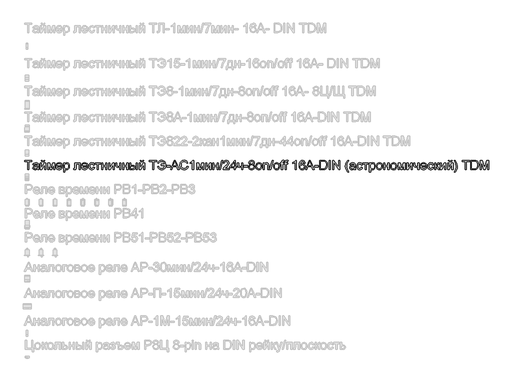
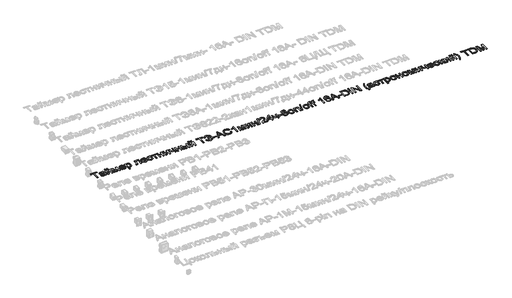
# One storey, part 32 of 34: 1 proxy.
"""IFC4 building model written with IfcOpenShell, lengths in millimetres."""

from ifc_helpers import new_model, si_unit, frame, origin, place, context, project, spatial, polyline, outline, extrude, element, save

model = new_model("IFC4")

# Units and contexts
model_context = context("Model", 3, world=origin())
ifc_project = project(units=[si_unit("LENGTHUNIT", "METRE", prefix="MILLI")], contexts=[model_context])

# Site, building, storey
site = spatial("IfcSite", under=ifc_project)
building = spatial("IfcBuilding", under=site)
storey = spatial("IfcBuildingStorey", under=building, Name="Этаж 01", Elevation=0.0)

# Proxy
placement = place(None, origin())
element("IfcBuildingElementProxy", 1, Name="Надпись на модели 1", ObjectType="Надпись на модели 1", at=placement, inside=storey, context=model_context, shape_type="SweptSolid", body=[
    extrude(outline(polyline([(-19013.8985135, 17056.235284), (-19013.8985135, 17144.1345554), (-19046.8607403, 17144.1345554), (-19046.8607403, 17156.6915941), (-18968.379248, 17156.6915941), (-18968.379248, 17144.1345554), (-19001.3414748, 17144.1345554), (-19001.3414748, 17056.235284), (-19013.8985135, 17056.235284)])), frame((0.0, 0.0, 40.0), z_axis=(0.0, 0.0, 1.0), x_axis=(1.0, 0.0, 0.0)), (0.0, 0.0, 1.0), 2.0),
    extrude(outline(polyline([(-18908.7333139, 17065.6530631), (-18920.9102079, 17057.1427262), (-18934.3624262, 17054.6656541), (-18944.8562601, 17056.1555762), (-18952.5971104, 17060.6253425), (-18957.3703793, 17067.4127653), (-18958.9614689, 17075.8556571), (-18956.5579732, 17085.7884709), (-18950.2426656, 17092.998958), (-18941.450286, 17097.1192364), (-18930.5855044, 17099.0076973), (-18908.8068903, 17103.3241794), (-18908.7333139, 17106.1200825), (-18912.1914046, 17115.3907088), (-18926.0728186, 17119.0204778), (-18938.7770101, 17116.6047194), (-18944.8348003, 17108.0330689), (-18957.3918391, 17109.6026988), (-18951.9594483, 17121.8654319), (-18941.0210903, 17129.0513936), (-18924.4541378, 17131.5775166), (-18909.2360859, 17129.3456992), (-18900.63991, 17123.7416301), (-18896.7894117, 17115.2190306), (-18896.1762751, 17104.2316216), (-18896.1762751, 17088.6088996), (-18895.538613, 17066.7934973), (-18893.0370154, 17056.235284), (-18905.5940542, 17056.235284), (-18908.7333139, 17065.6530631)]), holes=[polyline([(-18908.7333139, 17090.7671406), (-18928.9913491, 17086.9166424), (-18939.794817, 17084.8810287), (-18944.6876475, 17081.5700907), (-18946.4044302, 17076.7385739), (-18942.6642965, 17069.9450197), (-18931.6891504, 17067.2226929), (-18918.9849588, 17070.2270625), (-18910.793453, 17077.4988633), (-18908.8068903, 17087.210948), (-18908.7333139, 17090.7671406)])]), frame((0.0, 0.0, 40.0), z_axis=(0.0, 0.0, 1.0), x_axis=(1.0, 0.0, 0.0)), (0.0, 0.0, 1.0), 2.0),
    extrude(outline(polyline([(-18878.9103468, 17130.0078868), (-18866.353308, 17130.0078868), (-18866.353308, 17073.746467), (-18835.5002713, 17130.0078868), (-18819.2644126, 17130.0078868), (-18819.2644126, 17056.235284), (-18831.8214514, 17056.235284), (-18831.8214514, 17112.1533473), (-18862.4782843, 17056.235284), (-18878.9103468, 17056.235284), (-18878.9103468, 17130.0078868)])), frame((0.0, 0.0, 40.0), z_axis=(0.0, 0.0, 1.0), x_axis=(1.0, 0.0, 0.0)), (0.0, 0.0, 1.0), 2.0),
    extrude(outline(polyline([(-18838.0999708, 17156.6915941), (-18828.6821917, 17156.6915941), (-18834.7767701, 17142.7243411), (-18848.3025648, 17137.856036), (-18862.9442682, 17142.6875529), (-18869.4925677, 17156.6915941), (-18860.0747886, 17156.6915941), (-18856.5431215, 17149.6159971), (-18849.4307362, 17147.2738151), (-18841.6316379, 17149.5424207), (-18838.0999708, 17156.6915941)])), frame((0.0, 0.0, 40.0), z_axis=(0.0, 0.0, 1.0), x_axis=(1.0, 0.0, 0.0)), (0.0, 0.0, 1.0), 2.0),
    extrude(outline(polyline([(-18800.4288545, 17130.0078868), (-18778.8219186, 17130.0078868), (-18762.169127, 17070.9505638), (-18744.2164856, 17130.0078868), (-18723.516992, 17130.0078868), (-18723.516992, 17056.235284), (-18736.0740308, 17056.235284), (-18736.0740308, 17115.6359635), (-18754.124774, 17056.235284), (-18770.6058874, 17056.235284), (-18787.8718157, 17118.4809176), (-18787.8718157, 17056.235284), (-18800.4288545, 17056.235284), (-18800.4288545, 17130.0078868)])), frame((0.0, 0.0, 40.0), z_axis=(0.0, 0.0, 1.0), x_axis=(1.0, 0.0, 0.0)), (0.0, 0.0, 1.0), 2.0),
    extrude(outline(polyline([(-18653.0308017, 17078.2101018), (-18640.7190176, 17076.640472), (-18645.1550614, 17067.3637143), (-18652.2337241, 17060.4291387), (-18661.7955903, 17056.1065253), (-18673.6812444, 17054.6656541), (-18688.4149183, 17057.1519233), (-18699.7518151, 17064.6107308), (-18706.9806963, 17076.5576985), (-18709.3903234, 17092.5084487), (-18706.9561709, 17108.9956935), (-18699.6537133, 17121.3258717), (-18688.4701006, 17129.0146054), (-18674.3924829, 17131.5775166), (-18660.753258, 17129.0207367), (-18649.8547538, 17121.3503971), (-18642.7086461, 17109.0447444), (-18640.3266102, 17092.5820251), (-18640.4001866, 17089.1975108), (-18696.8332846, 17089.1975108), (-18694.6597152, 17079.7981258), (-18689.6105348, 17072.8880756), (-18682.3234056, 17068.6390386), (-18673.4359897, 17067.2226929), (-18661.1242056, 17069.8469178), (-18653.0308017, 17078.2101018)]), holes=[polyline([(-18696.8332846, 17101.7545495), (-18652.8836489, 17101.7545495), (-18657.9113695, 17113.1343659), (-18665.2322212, 17117.5489499), (-18674.4415339, 17119.0204778), (-18689.9048404, 17114.323851), (-18694.7700798, 17108.8332123), (-18696.8332846, 17101.7545495)])]), frame((0.0, 0.0, 40.0), z_axis=(0.0, 0.0, 1.0), x_axis=(1.0, 0.0, 0.0)), (0.0, 0.0, 1.0), 2.0),
    extrude(outline(polyline([(-18627.7695714, 17027.9819468), (-18627.7695714, 17130.0078868), (-18615.2125326, 17130.0078868), (-18615.2125326, 17117.6961027), (-18606.5305175, 17128.1071631), (-18594.8073446, 17131.5775166), (-18578.890317, 17126.7214743), (-18568.4915192, 17113.036264), (-18564.9843776, 17093.6856711), (-18568.9452404, 17073.3417968), (-18580.4476841, 17059.4849083), (-18596.3279235, 17054.6656541), (-18607.2540188, 17057.890753), (-18615.2125326, 17066.0454705), (-18615.2125326, 17027.9819468), (-18627.7695714, 17027.9819468)]), holes=[polyline([(-18615.2125326, 17092.5329742), (-18613.8544349, 17081.2757851), (-18609.7801418, 17073.4031104), (-18603.7683369, 17068.7677973), (-18596.5977037, 17067.2226929), (-18589.3105745, 17068.8229796), (-18583.1454854, 17073.6238396), (-18578.9424336, 17081.7846886), (-18577.5414163, 17093.4649419), (-18578.9087111, 17104.6608173), (-18583.0105953, 17112.6438566), (-18589.0132032, 17117.4263225), (-18596.0826689, 17119.0204778), (-18603.1797257, 17117.325155), (-18609.4122598, 17112.2391864), (-18613.7624644, 17103.9219876), (-18615.2125326, 17092.5329742)])]), frame((0.0, 0.0, 40.0), z_axis=(0.0, 0.0, 1.0), x_axis=(1.0, 0.0, 0.0)), (0.0, 0.0, 1.0), 2.0),
    extrude(outline(polyline([(-18505.3384434, 17130.0078868), (-18448.8317689, 17130.0078868), (-18448.8317689, 17056.3088604), (-18461.3888077, 17056.3088604), (-18461.3888077, 17117.450848), (-18492.7814046, 17117.450848), (-18492.7814046, 17082.2568038), (-18493.6275332, 17066.0209451), (-18498.2751091, 17059.1660772), (-18509.262518, 17056.235284), (-18519.465112, 17056.8729461), (-18519.465112, 17068.7923228), (-18513.8487802, 17068.7923228), (-18508.1711348, 17069.564875), (-18505.9025291, 17072.0174216), (-18505.3384434, 17082.9680423), (-18505.3384434, 17130.0078868)])), frame((0.0, 0.0, 40.0), z_axis=(0.0, 0.0, 1.0), x_axis=(1.0, 0.0, 0.0)), (0.0, 0.0, 1.0), 2.0),
    extrude(outline(polyline([(-18378.3455787, 17078.2101018), (-18366.0337946, 17076.640472), (-18370.4698383, 17067.3637143), (-18377.548501, 17060.4291387), (-18387.1103672, 17056.1065253), (-18398.9960213, 17054.6656541), (-18413.7296952, 17057.1519233), (-18425.0665921, 17064.6107308), (-18432.2954733, 17076.5576985), (-18434.7051003, 17092.5084487), (-18432.2709478, 17108.9956935), (-18424.9684902, 17121.3258717), (-18413.7848775, 17129.0146054), (-18399.7072599, 17131.5775166), (-18386.0680349, 17129.0207367), (-18375.1695308, 17121.3503971), (-18368.023423, 17109.0447444), (-18365.6413871, 17092.5820251), (-18365.7149635, 17089.1975108), (-18422.1480616, 17089.1975108), (-18419.9744921, 17079.7981258), (-18414.9253117, 17072.8880756), (-18407.6381825, 17068.6390386), (-18398.7507667, 17067.2226929), (-18386.4389826, 17069.8469178), (-18378.3455787, 17078.2101018)]), holes=[polyline([(-18422.1480616, 17101.7545495), (-18378.1984259, 17101.7545495), (-18383.2261465, 17113.1343659), (-18390.5469982, 17117.5489499), (-18399.7563108, 17119.0204778), (-18415.2196173, 17114.323851), (-18420.0848567, 17108.8332123), (-18422.1480616, 17101.7545495)])]), frame((0.0, 0.0, 40.0), z_axis=(0.0, 0.0, 1.0), x_axis=(1.0, 0.0, 0.0)), (0.0, 0.0, 1.0), 2.0),
    extrude(outline(polyline([(-18305.995453, 17082.9189914), (-18293.4384142, 17081.3493615), (-18296.9394245, 17070.1810773), (-18303.5183809, 17061.7412512), (-18312.5560152, 17056.4345534), (-18323.4330595, 17054.6656541), (-18336.7902416, 17057.1335292), (-18347.2350246, 17064.5371544), (-18353.9764622, 17076.5515672), (-18356.223608, 17092.8518052), (-18352.3853725, 17113.7107144), (-18340.6867251, 17127.1138817), (-18323.6047378, 17131.5775166), (-18312.9944079, 17130.044675), (-18304.5116622, 17125.44615), (-18298.4262809, 17118.0271964), (-18295.008044, 17108.0330689), (-18307.5650828, 17106.4634391), (-18313.3898811, 17115.8689554), (-18323.5066359, 17119.0204778), (-18331.6214996, 17117.4692421), (-18338.0625002, 17112.8155349), (-18342.265552, 17104.8079701), (-18343.6665693, 17093.1951618), (-18342.2962088, 17081.4260036), (-18338.1851275, 17073.3908477), (-18331.8606229, 17068.7647316), (-18323.8499925, 17067.2226929), (-18312.0164549, 17071.0731911), (-18305.995453, 17082.9189914)])), frame((0.0, 0.0, 40.0), z_axis=(0.0, 0.0, 1.0), x_axis=(1.0, 0.0, 0.0)), (0.0, 0.0, 1.0), 2.0),
    extrude(outline(polyline([(-18288.7295246, 17130.0078868), (-18229.0835905, 17130.0078868), (-18229.0835905, 17117.450848), (-18252.6280382, 17117.450848), (-18252.6280382, 17056.235284), (-18265.185077, 17056.235284), (-18265.185077, 17117.450848), (-18288.7295246, 17117.450848), (-18288.7295246, 17130.0078868)])), frame((0.0, 0.0, 40.0), z_axis=(0.0, 0.0, 1.0), x_axis=(1.0, 0.0, 0.0)), (0.0, 0.0, 1.0), 2.0),
    extrude(outline(polyline([(-18218.0961816, 17130.0078868), (-18205.5391428, 17130.0078868), (-18205.5391428, 17101.7545495), (-18172.576916, 17101.7545495), (-18172.576916, 17130.0078868), (-18160.0198773, 17130.0078868), (-18160.0198773, 17056.235284), (-18172.576916, 17056.235284), (-18172.576916, 17089.1975108), (-18205.5391428, 17089.1975108), (-18205.5391428, 17056.235284), (-18218.0961816, 17056.235284), (-18218.0961816, 17130.0078868)])), frame((0.0, 0.0, 40.0), z_axis=(0.0, 0.0, 1.0), x_axis=(1.0, 0.0, 0.0)), (0.0, 0.0, 1.0), 2.0),
    extrude(outline(polyline([(-18141.1843191, 17130.0078868), (-18128.6272803, 17130.0078868), (-18128.6272803, 17073.746467), (-18097.7742437, 17130.0078868), (-18081.538385, 17130.0078868), (-18081.538385, 17056.235284), (-18094.0954237, 17056.235284), (-18094.0954237, 17112.1533473), (-18124.7522567, 17056.235284), (-18141.1843191, 17056.235284), (-18141.1843191, 17130.0078868)])), frame((0.0, 0.0, 40.0), z_axis=(0.0, 0.0, 1.0), x_axis=(1.0, 0.0, 0.0)), (0.0, 0.0, 1.0), 2.0),
    extrude(outline(polyline([(-18067.4117163, 17130.0078868), (-18054.8546776, 17130.0078868), (-18054.8546776, 17115.8566927), (-18053.8368707, 17102.5884154), (-18048.9440402, 17095.4024537), (-18039.2319555, 17092.3367705), (-18021.8924508, 17096.1382177), (-18021.8924508, 17130.0078868), (-18009.335412, 17130.0078868), (-18009.335412, 17056.235284), (-18021.8924508, 17056.235284), (-18021.8924508, 17084.0962138), (-18042.5919444, 17079.7797317), (-18056.8289776, 17084.2801548), (-18065.2044244, 17095.3043519), (-18067.4117163, 17109.6517497), (-18067.4117163, 17130.0078868)])), frame((0.0, 0.0, 40.0), z_axis=(0.0, 0.0, 1.0), x_axis=(1.0, 0.0, 0.0)), (0.0, 0.0, 1.0), 2.0),
    extrude(outline(polyline([(-17990.4998539, 17130.0078868), (-17977.9428151, 17130.0078868), (-17977.9428151, 17101.7545495), (-17944.9805884, 17101.7545495), (-17944.9805884, 17130.0078868), (-17932.4235496, 17130.0078868), (-17932.4235496, 17056.235284), (-17944.9805884, 17056.235284), (-17944.9805884, 17089.1975108), (-17977.9428151, 17089.1975108), (-17977.9428151, 17056.235284), (-17990.4998539, 17056.235284), (-17990.4998539, 17130.0078868)])), frame((0.0, 0.0, 40.0), z_axis=(0.0, 0.0, 1.0), x_axis=(1.0, 0.0, 0.0)), (0.0, 0.0, 1.0), 2.0),
    extrude(outline(polyline([(-17844.5242782, 17130.0078868), (-17831.9672394, 17130.0078868), (-17831.9672394, 17056.235284), (-17844.5242782, 17056.235284), (-17844.5242782, 17130.0078868)])), frame((0.0, 0.0, 40.0), z_axis=(0.0, 0.0, 1.0), x_axis=(1.0, 0.0, 0.0)), (0.0, 0.0, 1.0), 2.0),
    extrude(outline(polyline([(-17913.5879914, 17130.0078868), (-17901.0309527, 17130.0078868), (-17901.0309527, 17103.3241794), (-17885.5063325, 17103.3241794), (-17872.0878367, 17101.7514838), (-17862.1458258, 17097.0333973), (-17855.9929994, 17089.5500643), (-17853.9420573, 17079.6816298), (-17855.6619056, 17070.6961121), (-17860.8214506, 17063.1146773), (-17869.7579174, 17057.9551323), (-17882.8085312, 17056.235284), (-17913.5879914, 17056.235284), (-17913.5879914, 17130.0078868)]), holes=[polyline([(-17901.0309527, 17068.7923228), (-17888.1305574, 17068.7923228), (-17871.4777657, 17071.4288104), (-17866.499096, 17079.6571044), (-17870.1901787, 17087.3826263), (-17886.4873511, 17090.7671406), (-17901.0309527, 17090.7671406), (-17901.0309527, 17068.7923228)])]), frame((0.0, 0.0, 40.0), z_axis=(0.0, 0.0, 1.0), x_axis=(1.0, 0.0, 0.0)), (0.0, 0.0, 1.0), 2.0),
    extrude(outline(polyline([(-17813.1316813, 17130.0078868), (-17800.5746425, 17130.0078868), (-17800.5746425, 17073.746467), (-17769.7216059, 17130.0078868), (-17753.4857471, 17130.0078868), (-17753.4857471, 17056.235284), (-17766.0427859, 17056.235284), (-17766.0427859, 17112.1533473), (-17796.6996188, 17056.235284), (-17813.1316813, 17056.235284), (-17813.1316813, 17130.0078868)])), frame((0.0, 0.0, 40.0), z_axis=(0.0, 0.0, 1.0), x_axis=(1.0, 0.0, 0.0)), (0.0, 0.0, 1.0), 2.0),
    extrude(outline(polyline([(-17772.3213053, 17156.6915941), (-17762.9035262, 17156.6915941), (-17768.9981046, 17142.7243411), (-17782.5238993, 17137.856036), (-17797.1656027, 17142.6875529), (-17803.7139022, 17156.6915941), (-17794.2961231, 17156.6915941), (-17790.764456, 17149.6159971), (-17783.6520707, 17147.2738151), (-17775.8529724, 17149.5424207), (-17772.3213053, 17156.6915941)])), frame((0.0, 0.0, 40.0), z_axis=(0.0, 0.0, 1.0), x_axis=(1.0, 0.0, 0.0)), (0.0, 0.0, 1.0), 2.0),
    extrude(outline(polyline([(-17668.7257354, 17056.235284), (-17668.7257354, 17144.1345554), (-17701.6879622, 17144.1345554), (-17701.6879622, 17156.6915941), (-17623.2064699, 17156.6915941), (-17623.2064699, 17144.1345554), (-17656.1686967, 17144.1345554), (-17656.1686967, 17056.235284), (-17668.7257354, 17056.235284)])), frame((0.0, 0.0, 40.0), z_axis=(0.0, 0.0, 1.0), x_axis=(1.0, 0.0, 0.0)), (0.0, 0.0, 1.0), 2.0),
    extrude(outline(polyline([(-17576.1175745, 17114.3115883), (-17538.4464582, 17114.3115883), (-17541.2117045, 17127.2641002), (-17547.8397118, 17137.2306366), (-17558.0300431, 17143.5857981), (-17571.4822614, 17145.7041852), (-17589.6985515, 17140.6028882), (-17599.6620222, 17125.2989972), (-17612.219061, 17128.4382569), (-17606.8479839, 17140.933982), (-17598.0923924, 17150.3640238), (-17586.3753508, 17156.2869239), (-17572.1199235, 17158.261224), (-17558.4285819, 17156.4494052), (-17546.7851168, 17151.0139487), (-17537.5359503, 17142.7611293), (-17531.0275046, 17132.4972216), (-17525.8894194, 17107.5670851), (-17528.2132074, 17086.9748904), (-17536.7051501, 17069.9327569), (-17551.3161967, 17058.4824298), (-17571.9972962, 17054.6656541), (-17587.0252757, 17056.7257933), (-17598.9998346, 17062.9062108), (-17607.920973, 17073.2069067), (-17613.7886908, 17087.6278809), (-17601.2316521, 17090.7671406), (-17596.9887464, 17080.4664447), (-17590.4649723, 17073.1088048), (-17581.6603299, 17068.6942209), (-17570.5748191, 17067.2226929), (-17558.0545686, 17069.5342181), (-17548.0113901, 17076.4687937), (-17541.2178359, 17087.4132831), (-17538.4464582, 17101.7545495), (-17576.1175745, 17101.7545495), (-17576.1175745, 17114.3115883)])), frame((0.0, 0.0, 40.0), z_axis=(0.0, 0.0, 1.0), x_axis=(1.0, 0.0, 0.0)), (0.0, 0.0, 1.0), 2.0),
    extrude(outline(polyline([(-17516.4716404, 17086.0582511), (-17516.4716404, 17098.6152898), (-17477.2308942, 17098.6152898), (-17477.2308942, 17086.0582511), (-17516.4716404, 17086.0582511)])), frame((0.0, 0.0, 40.0), z_axis=(0.0, 0.0, 1.0), x_axis=(1.0, 0.0, 0.0)), (0.0, 0.0, 1.0), 2.0),
    extrude(outline(polyline([(-17473.2332432, 17056.235284), (-17433.1341057, 17156.6915941), (-17422.4410024, 17156.6915941), (-17382.3418649, 17056.235284), (-17395.6101422, 17056.235284), (-17407.1125859, 17087.6278809), (-17448.4870477, 17087.6278809), (-17459.9649659, 17056.235284), (-17473.2332432, 17056.235284)]), holes=[polyline([(-17443.87626, 17100.1849197), (-17411.6988481, 17100.1849197), (-17420.7487452, 17124.8820643), (-17427.7875541, 17144.1345554), (-17434.041548, 17127.0403053), (-17443.87626, 17100.1849197)])]), frame((0.0, 0.0, 40.0), z_axis=(0.0, 0.0, 1.0), x_axis=(1.0, 0.0, 0.0)), (0.0, 0.0, 1.0), 2.0),
    extrude(outline(polyline([(-17298.2930918, 17091.944363), (-17285.736053, 17088.7070014), (-17291.5301944, 17074.0744951), (-17300.6230111, 17063.3844574), (-17312.5669132, 17056.845355), (-17326.914311, 17054.6656541), (-17341.4793723, 17056.3149918), (-17353.0461954, 17061.2630046), (-17361.9121515, 17069.3380144), (-17368.3746118, 17080.3683429), (-17373.6353244, 17107.2237285), (-17372.148468, 17121.8715633), (-17367.6878988, 17134.5205726), (-17360.4866087, 17144.7691518), (-17350.7775897, 17152.2156965), (-17339.2628833, 17156.7498421), (-17326.6445309, 17158.261224), (-17312.8765472, 17156.305318), (-17301.4936651, 17150.4376002), (-17292.8515039, 17141.0198211), (-17287.3056828, 17128.4137314), (-17299.8627216, 17125.4216246), (-17310.1634175, 17140.8604056), (-17327.1350402, 17145.7041852), (-17346.7799387, 17140.3331081), (-17357.8777123, 17125.9121339), (-17361.0782856, 17107.248254), (-17357.2891011, 17085.6167927), (-17345.4923517, 17071.7966924), (-17328.1651098, 17067.2226929), (-17317.6835386, 17068.78006), (-17308.9494069, 17073.4521614), (-17302.3551221, 17081.189946), (-17298.2930918, 17091.944363)])), frame((0.0, 0.0, 40.0), z_axis=(0.0, 0.0, 1.0), x_axis=(1.0, 0.0, 0.0)), (0.0, 0.0, 1.0), 2.0),
    extrude(outline(polyline([(-17226.0901188, 17056.235284), (-17238.6471576, 17056.235284), (-17238.6471576, 17134.5205726), (-17250.5420088, 17126.0470239), (-17263.7612352, 17119.7071909), (-17263.7612352, 17131.5775166), (-17245.3548727, 17143.325215), (-17234.1835227, 17156.6915941), (-17226.0901188, 17156.6915941), (-17226.0901188, 17056.235284)])), frame((0.0, 0.0, 40.0), z_axis=(0.0, 0.0, 1.0), x_axis=(1.0, 0.0, 0.0)), (0.0, 0.0, 1.0), 2.0),
    extrude(outline(polyline([(-17193.1278921, 17130.0078868), (-17171.5209562, 17130.0078868), (-17154.8681646, 17070.9505638), (-17136.9155232, 17130.0078868), (-17116.2160296, 17130.0078868), (-17116.2160296, 17056.235284), (-17128.7730684, 17056.235284), (-17128.7730684, 17115.6359635), (-17146.8238116, 17056.235284), (-17163.304925, 17056.235284), (-17180.5708533, 17118.4809176), (-17180.5708533, 17056.235284), (-17193.1278921, 17056.235284), (-17193.1278921, 17130.0078868)])), frame((0.0, 0.0, 40.0), z_axis=(0.0, 0.0, 1.0), x_axis=(1.0, 0.0, 0.0)), (0.0, 0.0, 1.0), 2.0),
    extrude(outline(polyline([(-17097.3804715, 17130.0078868), (-17084.8234327, 17130.0078868), (-17084.8234327, 17073.746467), (-17053.970396, 17130.0078868), (-17037.7345373, 17130.0078868), (-17037.7345373, 17056.235284), (-17050.2915761, 17056.235284), (-17050.2915761, 17112.1533473), (-17080.948409, 17056.235284), (-17097.3804715, 17056.235284), (-17097.3804715, 17130.0078868)])), frame((0.0, 0.0, 40.0), z_axis=(0.0, 0.0, 1.0), x_axis=(1.0, 0.0, 0.0)), (0.0, 0.0, 1.0), 2.0),
    extrude(outline(polyline([(-17018.8989792, 17130.0078868), (-17006.3419404, 17130.0078868), (-17006.3419404, 17101.7545495), (-16973.3797136, 17101.7545495), (-16973.3797136, 17130.0078868), (-16960.8226749, 17130.0078868), (-16960.8226749, 17056.235284), (-16973.3797136, 17056.235284), (-16973.3797136, 17089.1975108), (-17006.3419404, 17089.1975108), (-17006.3419404, 17056.235284), (-17018.8989792, 17056.235284), (-17018.8989792, 17130.0078868)])), frame((0.0, 0.0, 40.0), z_axis=(0.0, 0.0, 1.0), x_axis=(1.0, 0.0, 0.0)), (0.0, 0.0, 1.0), 2.0),
    extrude(outline(polyline([(-16951.4048958, 17056.235284), (-16923.1515586, 17156.6915941), (-16911.8207931, 17156.6915941), (-16940.0741303, 17056.235284), (-16951.4048958, 17056.235284)])), frame((0.0, 0.0, 40.0), z_axis=(0.0, 0.0, 1.0), x_axis=(1.0, 0.0, 0.0)), (0.0, 0.0, 1.0), 2.0),
    extrude(outline(polyline([(-16841.5308066, 17068.7923228), (-16841.5308066, 17056.235284), (-16907.4552601, 17056.235284), (-16906.1063594, 17064.8927736), (-16898.4789394, 17078.2223646), (-16882.7581155, 17092.7782288), (-16861.0776032, 17113.6984516), (-16855.6574752, 17127.9232221), (-16860.7710349, 17139.4379286), (-16874.1251513, 17144.1345554), (-16888.0433535, 17139.5482932), (-16893.3285915, 17126.8686271), (-16905.8856302, 17128.4382569), (-16902.8414067, 17140.5844941), (-16896.2593847, 17149.4565816), (-16886.4829207, 17154.882841), (-16873.8553712, 17156.6915941), (-16861.1358512, 17154.6805059), (-16851.3777813, 17148.6472412), (-16845.1697726, 17139.6341323), (-16843.1004364, 17128.6835116), (-16845.3322538, 17116.7763977), (-16852.7512074, 17104.4646136), (-16870.740637, 17087.2599989), (-16885.1861366, 17075.1812067), (-16890.8515194, 17068.7923228), (-16841.5308066, 17068.7923228)])), frame((0.0, 0.0, 40.0), z_axis=(0.0, 0.0, 1.0), x_axis=(1.0, 0.0, 0.0)), (0.0, 0.0, 1.0), 2.0),
    extrude(outline(polyline([(-16788.1633918, 17056.235284), (-16788.1633918, 17079.7797317), (-16833.6826573, 17079.7797317), (-16833.6826573, 17092.3367705), (-16785.0241321, 17155.1219643), (-16775.606353, 17155.1219643), (-16775.606353, 17092.3367705), (-16763.0493143, 17092.3367705), (-16763.0493143, 17079.7797317), (-16775.606353, 17079.7797317), (-16775.606353, 17056.235284), (-16788.1633918, 17056.235284)]), holes=[polyline([(-16788.1633918, 17092.3367705), (-16788.1633918, 17131.1360582), (-16818.2316135, 17092.3367705), (-16788.1633918, 17092.3367705)])]), frame((0.0, 0.0, 40.0), z_axis=(0.0, 0.0, 1.0), x_axis=(1.0, 0.0, 0.0)), (0.0, 0.0, 1.0), 2.0),
    extrude(outline(polyline([(-16753.6315352, 17130.0078868), (-16741.0744964, 17130.0078868), (-16741.0744964, 17115.8566927), (-16740.0566896, 17102.5884154), (-16735.163859, 17095.4024537), (-16725.4517743, 17092.3367705), (-16708.1122696, 17096.1382177), (-16708.1122696, 17130.0078868), (-16695.5552309, 17130.0078868), (-16695.5552309, 17056.235284), (-16708.1122696, 17056.235284), (-16708.1122696, 17084.0962138), (-16728.8117632, 17079.7797317), (-16743.0487964, 17084.2801548), (-16751.4242432, 17095.3043519), (-16753.6315352, 17109.6517497), (-16753.6315352, 17130.0078868)])), frame((0.0, 0.0, 40.0), z_axis=(0.0, 0.0, 1.0), x_axis=(1.0, 0.0, 0.0)), (0.0, 0.0, 1.0), 2.0),
    extrude(outline(polyline([(-16682.9981921, 17086.0582511), (-16682.9981921, 17098.6152898), (-16643.7574459, 17098.6152898), (-16643.7574459, 17086.0582511), (-16682.9981921, 17086.0582511)])), frame((0.0, 0.0, 40.0), z_axis=(0.0, 0.0, 1.0), x_axis=(1.0, 0.0, 0.0)), (0.0, 0.0, 1.0), 2.0),
    extrude(outline(polyline([(-16614.4740391, 17111.5647361), (-16625.9151692, 17119.3638344), (-16629.6307773, 17131.5039402), (-16627.6074264, 17141.3202581), (-16621.5373734, 17149.4320561), (-16612.1012003, 17154.8767096), (-16599.9794885, 17156.6915941), (-16587.7842004, 17154.8337901), (-16578.2253999, 17149.2603778), (-16572.0449824, 17141.0198211), (-16569.9848432, 17131.1605837), (-16573.6514004, 17119.3270462), (-16584.7736994, 17111.5647361), (-16571.419583, 17101.7177613), (-16566.8455835, 17085.4696399), (-16569.1141891, 17073.4644241), (-16575.920006, 17063.543873), (-16586.4291684, 17056.8852089), (-16599.8078103, 17054.6656541), (-16613.1864521, 17056.8944059), (-16623.6956145, 17063.5806612), (-16630.5014314, 17073.5962485), (-16632.770037, 17085.8129964), (-16628.0120966, 17102.4412626), (-16614.4740391, 17111.5647361)]), holes=[polyline([(-16617.0737386, 17131.1360582), (-16612.6223664, 17121.2768207), (-16599.6606575, 17117.450848), (-16586.9564659, 17121.2522953), (-16582.541882, 17130.5719725), (-16587.1036187, 17140.2227435), (-16599.8078103, 17144.1345554), (-16612.54879, 17140.3085826), (-16617.0737386, 17131.1360582)]), polyline([(-16620.2129983, 17086.2544548), (-16618.1160709, 17076.7998875), (-16610.6971173, 17069.7242905), (-16599.7097084, 17067.2226929), (-16591.1625834, 17068.537871), (-16584.7491739, 17072.4834054), (-16579.4026223, 17085.8620473), (-16584.9208522, 17099.4982066), (-16591.4814144, 17103.5449086), (-16600.1266413, 17104.8938092), (-16608.5542047, 17103.5633027), (-16614.9032348, 17099.571783), (-16620.2129983, 17086.2544548)])]), frame((0.0, 0.0, 40.0), z_axis=(0.0, 0.0, 1.0), x_axis=(1.0, 0.0, 0.0)), (0.0, 0.0, 1.0), 2.0),
    extrude(outline(polyline([(-16555.8581746, 17093.1215854), (-16553.1419792, 17110.9086798), (-16544.993393, 17123.4105363), (-16534.925689, 17129.5357715), (-16522.8714223, 17131.5775166), (-16509.6797871, 17129.0912475), (-16499.1430336, 17121.63244), (-16492.2360492, 17109.7897054), (-16489.933721, 17094.151655), (-16494.0049484, 17071.8089551), (-16505.8630114, 17059.1660772), (-16522.8714223, 17054.6656541), (-16536.2224731, 17057.1427262), (-16546.7469638, 17064.5739426), (-16553.5803719, 17076.6649975), (-16555.8581746, 17093.1215854)]), holes=[polyline([(-16543.3011358, 17093.1461108), (-16541.8480019, 17081.7816229), (-16537.4886003, 17073.6851533), (-16530.928038, 17068.838308), (-16522.8714223, 17067.2226929), (-16514.8515948, 17068.8475051), (-16508.3032953, 17073.7219415), (-16503.9438937, 17081.92571), (-16502.4907598, 17093.5385183), (-16503.9530907, 17104.5719125), (-16508.3400835, 17112.5580175), (-16514.8975801, 17117.4048627), (-16522.8714223, 17119.0204778), (-16530.928038, 17117.4109941), (-16537.4886003, 17112.5825429), (-16541.8480019, 17104.5044674), (-16543.3011358, 17093.1461108)])]), frame((0.0, 0.0, 40.0), z_axis=(0.0, 0.0, 1.0), x_axis=(1.0, 0.0, 0.0)), (0.0, 0.0, 1.0), 2.0),
    extrude(outline(polyline([(-16475.8070524, 17056.235284), (-16475.8070524, 17130.0078868), (-16463.2500136, 17130.0078868), (-16463.2500136, 17119.7071909), (-16453.6482936, 17128.6099352), (-16440.5394318, 17131.5775166), (-16428.6813688, 17129.1862836), (-16420.5879649, 17122.9077643), (-16416.8233059, 17113.6739262), (-16416.1611183, 17101.5338203), (-16416.1611183, 17056.235284), (-16428.718157, 17056.235284), (-16428.718157, 17099.8415632), (-16430.1651595, 17110.9515994), (-16435.2787193, 17116.8254486), (-16443.8994207, 17119.0204778), (-16457.5233173, 17114.0908591), (-16461.8183395, 17106.947817), (-16463.2500136, 17095.3779283), (-16463.2500136, 17056.235284), (-16475.8070524, 17056.235284)])), frame((0.0, 0.0, 40.0), z_axis=(0.0, 0.0, 1.0), x_axis=(1.0, 0.0, 0.0)), (0.0, 0.0, 1.0), 2.0),
    extrude(outline(polyline([(-16408.312969, 17056.235284), (-16380.0596318, 17156.6915941), (-16368.7288664, 17156.6915941), (-16396.9822036, 17056.235284), (-16408.312969, 17056.235284)])), frame((0.0, 0.0, 40.0), z_axis=(0.0, 0.0, 1.0), x_axis=(1.0, 0.0, 0.0)), (0.0, 0.0, 1.0), 2.0),
    extrude(outline(polyline([(-16362.7937035, 17093.1215854), (-16360.0775081, 17110.9086798), (-16351.9289219, 17123.4105363), (-16341.861218, 17129.5357715), (-16329.8069513, 17131.5775166), (-16316.6153161, 17129.0912475), (-16306.0785626, 17121.63244), (-16299.1715781, 17109.7897054), (-16296.86925, 17094.151655), (-16300.9404774, 17071.8089551), (-16312.7985404, 17059.1660772), (-16329.8069513, 17054.6656541), (-16343.158002, 17057.1427262), (-16353.6824928, 17064.5739426), (-16360.5159008, 17076.6649975), (-16362.7937035, 17093.1215854)]), holes=[polyline([(-16350.2366647, 17093.1461108), (-16348.7835308, 17081.7816229), (-16344.4241292, 17073.6851533), (-16337.863567, 17068.838308), (-16329.8069513, 17067.2226929), (-16321.7871238, 17068.8475051), (-16315.2388243, 17073.7219415), (-16310.8794226, 17081.92571), (-16309.4262887, 17093.5385183), (-16310.8886197, 17104.5719125), (-16315.2756125, 17112.5580175), (-16321.833109, 17117.4048627), (-16329.8069513, 17119.0204778), (-16337.863567, 17117.4109941), (-16344.4241292, 17112.5825429), (-16348.7835308, 17104.5044674), (-16350.2366647, 17093.1461108)])]), frame((0.0, 0.0, 40.0), z_axis=(0.0, 0.0, 1.0), x_axis=(1.0, 0.0, 0.0)), (0.0, 0.0, 1.0), 2.0),
    extrude(outline(polyline([(-16238.7929457, 17056.235284), (-16238.7929457, 17117.450848), (-16249.7803546, 17117.450848), (-16249.7803546, 17130.0078868), (-16238.7929457, 17130.0078868), (-16238.7929457, 17137.4391031), (-16237.4685705, 17147.9114772), (-16231.0428983, 17155.3917444), (-16218.3877577, 17158.261224), (-16206.9343649, 17156.8877979), (-16208.7737749, 17145.115574), (-16216.0087874, 17145.7041852), (-16223.9182503, 17143.6195206), (-16226.2359069, 17135.8449477), (-16226.2359069, 17130.0078868), (-16212.1092383, 17130.0078868), (-16212.1092383, 17117.450848), (-16226.2359069, 17117.450848), (-16226.2359069, 17056.235284), (-16238.7929457, 17056.235284)])), frame((0.0, 0.0, 40.0), z_axis=(0.0, 0.0, 1.0), x_axis=(1.0, 0.0, 0.0)), (0.0, 0.0, 1.0), 2.0),
    extrude(outline(polyline([(-16279.6033217, 17056.235284), (-16279.6033217, 17117.450848), (-16290.5907306, 17117.450848), (-16290.5907306, 17130.0078868), (-16279.6033217, 17130.0078868), (-16279.6033217, 17137.4391031), (-16278.2789465, 17147.9114772), (-16271.8532743, 17155.3917444), (-16259.1981337, 17158.261224), (-16247.7447409, 17156.8877979), (-16249.5841508, 17145.115574), (-16256.8191634, 17145.7041852), (-16264.7286263, 17143.6195206), (-16267.0462829, 17135.8449477), (-16267.0462829, 17130.0078868), (-16252.9196143, 17130.0078868), (-16252.9196143, 17117.450848), (-16267.0462829, 17117.450848), (-16267.0462829, 17056.235284), (-16279.6033217, 17056.235284)])), frame((0.0, 0.0, 40.0), z_axis=(0.0, 0.0, 1.0), x_axis=(1.0, 0.0, 0.0)), (0.0, 0.0, 1.0), 2.0),
    extrude(outline(polyline([(-16117.9314475, 17056.235284), (-16130.4884863, 17056.235284), (-16130.4884863, 17134.5205726), (-16142.3833375, 17126.0470239), (-16155.6025638, 17119.7071909), (-16155.6025638, 17131.5775166), (-16137.1962013, 17143.325215), (-16126.0248514, 17156.6915941), (-16117.9314475, 17156.6915941), (-16117.9314475, 17056.235284)])), frame((0.0, 0.0, 40.0), z_axis=(0.0, 0.0, 1.0), x_axis=(1.0, 0.0, 0.0)), (0.0, 0.0, 1.0), 2.0),
    extrude(outline(polyline([(-16023.7536567, 17130.0078868), (-16036.3106955, 17128.4382569), (-16041.068636, 17138.910631), (-16053.6502002, 17144.1345554), (-16064.9809657, 17141.0933975), (-16073.5526162, 17129.676793), (-16077.1210715, 17107.2973049), (-16066.0478235, 17117.3159579), (-16052.325825, 17120.5901077), (-16040.7252795, 17118.3521589), (-16030.9886693, 17111.6383125), (-16024.3851875, 17101.3805362), (-16022.1840269, 17088.5107977), (-16026.3288307, 17071.1835557), (-16037.7331726, 17058.9208226), (-16054.1897605, 17054.6656541), (-16068.4359907, 17057.4860828), (-16079.7820846, 17065.9473687), (-16087.2041039, 17080.8833777), (-16089.6781103, 17103.1279756), (-16086.931258, 17128.13782), (-16078.6907014, 17145.2382014), (-16067.4396437, 17153.8282459), (-16052.8653853, 17156.6915941), (-16041.8473195, 17154.9196292), (-16033.024283, 17149.6037344), (-16026.8438655, 17141.1608426), (-16023.7536567, 17130.0078868)]), holes=[polyline([(-16077.1210715, 17088.7070014), (-16074.2148037, 17077.8299571), (-16066.4892818, 17069.9327569), (-16055.1707791, 17067.2226929), (-16046.8842372, 17068.6267759), (-16040.3696602, 17072.8390247), (-16036.1482143, 17079.4609006), (-16034.7410657, 17088.0938648), (-16036.1298202, 17096.3804067), (-16040.2960838, 17102.69878), (-16046.9210254, 17106.6994967), (-16055.6858139, 17108.0330689), (-16070.8793403, 17102.69878), (-16075.5606387, 17096.5336909), (-16077.1210715, 17088.7070014)])]), frame((0.0, 0.0, 40.0), z_axis=(0.0, 0.0, 1.0), x_axis=(1.0, 0.0, 0.0)), (0.0, 0.0, 1.0), 2.0),
    extrude(outline(polyline([(-16018.1863759, 17056.235284), (-15978.0872384, 17156.6915941), (-15967.3941351, 17156.6915941), (-15927.2949976, 17056.235284), (-15940.5632749, 17056.235284), (-15952.0657186, 17087.6278809), (-15993.4401803, 17087.6278809), (-16004.9180986, 17056.235284), (-16018.1863759, 17056.235284)]), holes=[polyline([(-15988.8293927, 17100.1849197), (-15956.6519808, 17100.1849197), (-15965.7018779, 17124.8820643), (-15972.7406867, 17144.1345554), (-15978.9946807, 17127.0403053), (-15988.8293927, 17100.1849197)])]), frame((0.0, 0.0, 40.0), z_axis=(0.0, 0.0, 1.0), x_axis=(1.0, 0.0, 0.0)), (0.0, 0.0, 1.0), 2.0),
    extrude(outline(polyline([(-15921.7277167, 17086.0582511), (-15921.7277167, 17098.6152898), (-15882.4869706, 17098.6152898), (-15882.4869706, 17086.0582511), (-15921.7277167, 17086.0582511)])), frame((0.0, 0.0, 40.0), z_axis=(0.0, 0.0, 1.0), x_axis=(1.0, 0.0, 0.0)), (0.0, 0.0, 1.0), 2.0),
    extrude(outline(polyline([(-15866.7906721, 17056.235284), (-15866.7906721, 17156.6915941), (-15832.1361882, 17156.6915941), (-15814.2080723, 17155.2445916), (-15799.4437416, 17148.05863), (-15787.5488904, 17130.8908035), (-15783.6002903, 17107.0029993), (-15786.2735661, 17086.7327014), (-15793.1406967, 17072.1032607), (-15802.3132211, 17062.99205), (-15814.3184369, 17057.9520666), (-15830.4684565, 17056.235284), (-15866.7906721, 17056.235284)]), holes=[polyline([(-15854.2336334, 17068.7923228), (-15832.0135609, 17068.7923228), (-15815.8512785, 17070.6072073), (-15806.5316013, 17075.7330297), (-15798.8919186, 17088.2042294), (-15796.1573291, 17107.1992031), (-15797.4970327, 17120.8844133), (-15801.5161435, 17130.9889054), (-15814.5514288, 17142.1234671), (-15832.3569174, 17144.1345554), (-15854.2336334, 17144.1345554), (-15854.2336334, 17068.7923228)])]), frame((0.0, 0.0, 40.0), z_axis=(0.0, 0.0, 1.0), x_axis=(1.0, 0.0, 0.0)), (0.0, 0.0, 1.0), 2.0),
    extrude(outline(polyline([(-15764.7647321, 17056.235284), (-15764.7647321, 17156.6915941), (-15752.2076934, 17156.6915941), (-15752.2076934, 17056.235284), (-15764.7647321, 17056.235284)])), frame((0.0, 0.0, 40.0), z_axis=(0.0, 0.0, 1.0), x_axis=(1.0, 0.0, 0.0)), (0.0, 0.0, 1.0), 2.0),
    extrude(outline(polyline([(-15727.0936158, 17056.235284), (-15727.0936158, 17156.6915941), (-15713.6536603, 17156.6915941), (-15661.1691623, 17077.1064559), (-15661.1691623, 17156.6915941), (-15648.6121235, 17156.6915941), (-15648.6121235, 17056.235284), (-15662.0520791, 17056.235284), (-15714.5365771, 17135.8449477), (-15714.5365771, 17056.235284), (-15727.0936158, 17056.235284)])), frame((0.0, 0.0, 40.0), z_axis=(0.0, 0.0, 1.0), x_axis=(1.0, 0.0, 0.0)), (0.0, 0.0, 1.0), 2.0),
    extrude(outline(polyline([(-15563.8521118, 17027.9819468), (-15581.6821259, 17057.4370318), (-15587.1451735, 17074.617121), (-15588.9661894, 17092.4103469), (-15583.5215358, 17122.9445525), (-15563.8521118, 17156.6915941), (-15554.4343328, 17156.6915941), (-15566.1820311, 17136.8014409), (-15573.2453654, 17117.5244244), (-15576.4091506, 17092.3367705), (-15570.9154461, 17060.1470959), (-15554.4343328, 17027.9819468), (-15563.8521118, 17027.9819468)])), frame((0.0, 0.0, 40.0), z_axis=(0.0, 0.0, 1.0), x_axis=(1.0, 0.0, 0.0)), (0.0, 0.0, 1.0), 2.0),
    extrude(outline(polyline([(-15494.7883986, 17065.6530631), (-15506.9652927, 17057.1427262), (-15520.4175109, 17054.6656541), (-15530.9113449, 17056.1555762), (-15538.6521952, 17060.6253425), (-15543.4254641, 17067.4127653), (-15545.0165537, 17075.8556571), (-15542.613058, 17085.7884709), (-15536.2977504, 17092.998958), (-15527.5053707, 17097.1192364), (-15516.6405891, 17099.0076973), (-15494.861975, 17103.3241794), (-15494.7883986, 17106.1200825), (-15498.2464894, 17115.3907088), (-15512.1279033, 17119.0204778), (-15524.8320949, 17116.6047194), (-15530.8898851, 17108.0330689), (-15543.4469238, 17109.6026988), (-15538.014533, 17121.8654319), (-15527.0761751, 17129.0513936), (-15510.5092225, 17131.5775166), (-15495.2911707, 17129.3456992), (-15486.6949947, 17123.7416301), (-15482.8444965, 17115.2190306), (-15482.2313598, 17104.2316216), (-15482.2313598, 17088.6088996), (-15481.5936977, 17066.7934973), (-15479.0921002, 17056.235284), (-15491.6491389, 17056.235284), (-15494.7883986, 17065.6530631)]), holes=[polyline([(-15494.7883986, 17090.7671406), (-15515.0464338, 17086.9166424), (-15525.8499017, 17084.8810287), (-15530.7427323, 17081.5700907), (-15532.4595149, 17076.7385739), (-15528.7193813, 17069.9450197), (-15517.7442351, 17067.2226929), (-15505.0400435, 17070.2270625), (-15496.8485378, 17077.4988633), (-15494.861975, 17087.210948), (-15494.7883986, 17090.7671406)])]), frame((0.0, 0.0, 40.0), z_axis=(0.0, 0.0, 1.0), x_axis=(1.0, 0.0, 0.0)), (0.0, 0.0, 1.0), 2.0),
    extrude(outline(polyline([(-15417.8765362, 17082.9189914), (-15405.3194974, 17081.3493615), (-15408.8205077, 17070.1810773), (-15415.3994641, 17061.7412512), (-15424.4370984, 17056.4345534), (-15435.3141427, 17054.6656541), (-15448.6713248, 17057.1335292), (-15459.1161078, 17064.5371544), (-15465.8575454, 17076.5515672), (-15468.1046912, 17092.8518052), (-15464.2664557, 17113.7107144), (-15452.5678083, 17127.1138817), (-15435.485821, 17131.5775166), (-15424.8754911, 17130.044675), (-15416.3927454, 17125.44615), (-15410.3073641, 17118.0271964), (-15406.8891272, 17108.0330689), (-15419.446166, 17106.4634391), (-15425.2709643, 17115.8689554), (-15435.3877191, 17119.0204778), (-15443.5025828, 17117.4692421), (-15449.9435834, 17112.8155349), (-15454.1466352, 17104.8079701), (-15455.5476525, 17093.1951618), (-15454.177292, 17081.4260036), (-15450.0662107, 17073.3908477), (-15443.7417061, 17068.7647316), (-15435.7310757, 17067.2226929), (-15423.8975381, 17071.0731911), (-15417.8765362, 17082.9189914)])), frame((0.0, 0.0, 40.0), z_axis=(0.0, 0.0, 1.0), x_axis=(1.0, 0.0, 0.0)), (0.0, 0.0, 1.0), 2.0),
    extrude(outline(polyline([(-15400.6106078, 17130.0078868), (-15340.9646737, 17130.0078868), (-15340.9646737, 17117.450848), (-15364.5091214, 17117.450848), (-15364.5091214, 17056.235284), (-15377.0661602, 17056.235284), (-15377.0661602, 17117.450848), (-15400.6106078, 17117.450848), (-15400.6106078, 17130.0078868)])), frame((0.0, 0.0, 40.0), z_axis=(0.0, 0.0, 1.0), x_axis=(1.0, 0.0, 0.0)), (0.0, 0.0, 1.0), 2.0),
    extrude(outline(polyline([(-15329.9772648, 17027.9819468), (-15329.9772648, 17130.0078868), (-15317.420226, 17130.0078868), (-15317.420226, 17117.6961027), (-15308.7382109, 17128.1071631), (-15297.015038, 17131.5775166), (-15281.0980103, 17126.7214743), (-15270.6992126, 17113.036264), (-15267.1920709, 17093.6856711), (-15271.1529337, 17073.3417968), (-15282.6553775, 17059.4849083), (-15298.5356169, 17054.6656541), (-15309.4617122, 17057.890753), (-15317.420226, 17066.0454705), (-15317.420226, 17027.9819468), (-15329.9772648, 17027.9819468)]), holes=[polyline([(-15317.420226, 17092.5329742), (-15316.0621283, 17081.2757851), (-15311.9878352, 17073.4031104), (-15305.9760303, 17068.7677973), (-15298.805397, 17067.2226929), (-15291.5182679, 17068.8229796), (-15285.3531788, 17073.6238396), (-15281.150127, 17081.7846886), (-15279.7491097, 17093.4649419), (-15281.1164044, 17104.6608173), (-15285.2182887, 17112.6438566), (-15291.2208966, 17117.4263225), (-15298.2903623, 17119.0204778), (-15305.3874191, 17117.325155), (-15311.6199532, 17112.2391864), (-15315.9701578, 17103.9219876), (-15317.420226, 17092.5329742)])]), frame((0.0, 0.0, 40.0), z_axis=(0.0, 0.0, 1.0), x_axis=(1.0, 0.0, 0.0)), (0.0, 0.0, 1.0), 2.0),
    extrude(outline(polyline([(-15256.204662, 17093.1215854), (-15253.4884666, 17110.9086798), (-15245.3398804, 17123.4105363), (-15235.2721765, 17129.5357715), (-15223.2179098, 17131.5775166), (-15210.0262746, 17129.0912475), (-15199.4895211, 17121.63244), (-15192.5825366, 17109.7897054), (-15190.2802085, 17094.151655), (-15194.3514359, 17071.8089551), (-15206.2094989, 17059.1660772), (-15223.2179098, 17054.6656541), (-15236.5689605, 17057.1427262), (-15247.0934513, 17064.5739426), (-15253.9268593, 17076.6649975), (-15256.204662, 17093.1215854)]), holes=[polyline([(-15243.6476232, 17093.1461108), (-15242.1944894, 17081.7816229), (-15237.8350877, 17073.6851533), (-15231.2745255, 17068.838308), (-15223.2179098, 17067.2226929), (-15215.1980823, 17068.8475051), (-15208.6497828, 17073.7219415), (-15204.2903811, 17081.92571), (-15202.8372472, 17093.5385183), (-15204.2995782, 17104.5719125), (-15208.686571, 17112.5580175), (-15215.2440675, 17117.4048627), (-15223.2179098, 17119.0204778), (-15231.2745255, 17117.4109941), (-15237.8350877, 17112.5825429), (-15242.1944894, 17104.5044674), (-15243.6476232, 17093.1461108)])]), frame((0.0, 0.0, 40.0), z_axis=(0.0, 0.0, 1.0), x_axis=(1.0, 0.0, 0.0)), (0.0, 0.0, 1.0), 2.0),
    extrude(outline(polyline([(-15176.1535399, 17130.0078868), (-15163.5965011, 17130.0078868), (-15163.5965011, 17101.7545495), (-15130.6342743, 17101.7545495), (-15130.6342743, 17130.0078868), (-15118.0772356, 17130.0078868), (-15118.0772356, 17056.235284), (-15130.6342743, 17056.235284), (-15130.6342743, 17089.1975108), (-15163.5965011, 17089.1975108), (-15163.5965011, 17056.235284), (-15176.1535399, 17056.235284), (-15176.1535399, 17130.0078868)])), frame((0.0, 0.0, 40.0), z_axis=(0.0, 0.0, 1.0), x_axis=(1.0, 0.0, 0.0)), (0.0, 0.0, 1.0), 2.0),
    extrude(outline(polyline([(-15102.3809371, 17093.1215854), (-15099.6647417, 17110.9086798), (-15091.5161555, 17123.4105363), (-15081.4484516, 17129.5357715), (-15069.3941849, 17131.5775166), (-15056.2025496, 17129.0912475), (-15045.6657962, 17121.63244), (-15038.7588117, 17109.7897054), (-15036.4564836, 17094.151655), (-15040.527711, 17071.8089551), (-15052.3857739, 17059.1660772), (-15069.3941849, 17054.6656541), (-15082.7452356, 17057.1427262), (-15093.2697263, 17064.5739426), (-15100.1031344, 17076.6649975), (-15102.3809371, 17093.1215854)]), holes=[polyline([(-15089.8238983, 17093.1461108), (-15088.3707644, 17081.7816229), (-15084.0113628, 17073.6851533), (-15077.4508005, 17068.838308), (-15069.3941849, 17067.2226929), (-15061.3743574, 17068.8475051), (-15054.8260578, 17073.7219415), (-15050.4666562, 17081.92571), (-15049.0135223, 17093.5385183), (-15050.4758533, 17104.5719125), (-15054.862846, 17112.5580175), (-15061.4203426, 17117.4048627), (-15069.3941849, 17119.0204778), (-15077.4508005, 17117.4109941), (-15084.0113628, 17112.5825429), (-15088.3707644, 17104.5044674), (-15089.8238983, 17093.1461108)])]), frame((0.0, 0.0, 40.0), z_axis=(0.0, 0.0, 1.0), x_axis=(1.0, 0.0, 0.0)), (0.0, 0.0, 1.0), 2.0),
    extrude(outline(polyline([(-15022.3298149, 17130.0078868), (-15000.7228791, 17130.0078868), (-14984.0700874, 17070.9505638), (-14966.1174461, 17130.0078868), (-14945.4179525, 17130.0078868), (-14945.4179525, 17056.235284), (-14957.9749912, 17056.235284), (-14957.9749912, 17115.6359635), (-14976.0257345, 17056.235284), (-14992.5068479, 17056.235284), (-15009.7727762, 17118.4809176), (-15009.7727762, 17056.235284), (-15022.3298149, 17056.235284), (-15022.3298149, 17130.0078868)])), frame((0.0, 0.0, 40.0), z_axis=(0.0, 0.0, 1.0), x_axis=(1.0, 0.0, 0.0)), (0.0, 0.0, 1.0), 2.0),
    extrude(outline(polyline([(-14926.5823943, 17130.0078868), (-14914.0253556, 17130.0078868), (-14914.0253556, 17073.746467), (-14883.1723189, 17130.0078868), (-14866.9364602, 17130.0078868), (-14866.9364602, 17056.235284), (-14879.4934989, 17056.235284), (-14879.4934989, 17112.1533473), (-14910.1503319, 17056.235284), (-14926.5823943, 17056.235284), (-14926.5823943, 17130.0078868)])), frame((0.0, 0.0, 40.0), z_axis=(0.0, 0.0, 1.0), x_axis=(1.0, 0.0, 0.0)), (0.0, 0.0, 1.0), 2.0),
    extrude(outline(polyline([(-14852.8097916, 17130.0078868), (-14840.2527528, 17130.0078868), (-14840.2527528, 17115.8566927), (-14839.2349459, 17102.5884154), (-14834.3421154, 17095.4024537), (-14824.6300307, 17092.3367705), (-14807.290526, 17096.1382177), (-14807.290526, 17130.0078868), (-14794.7334873, 17130.0078868), (-14794.7334873, 17056.235284), (-14807.290526, 17056.235284), (-14807.290526, 17084.0962138), (-14827.9900196, 17079.7797317), (-14842.2270528, 17084.2801548), (-14850.6024996, 17095.3043519), (-14852.8097916, 17109.6517497), (-14852.8097916, 17130.0078868)])), frame((0.0, 0.0, 40.0), z_axis=(0.0, 0.0, 1.0), x_axis=(1.0, 0.0, 0.0)), (0.0, 0.0, 1.0), 2.0),
    extrude(outline(polyline([(-14724.247297, 17078.2101018), (-14711.9355129, 17076.640472), (-14716.3715566, 17067.3637143), (-14723.4502193, 17060.4291387), (-14733.0120855, 17056.1065253), (-14744.8977396, 17054.6656541), (-14759.6314135, 17057.1519233), (-14770.9683104, 17064.6107308), (-14778.1971916, 17076.5576985), (-14780.6068186, 17092.5084487), (-14778.1726661, 17108.9956935), (-14770.8702085, 17121.3258717), (-14759.6865958, 17129.0146054), (-14745.6089782, 17131.5775166), (-14731.9697532, 17129.0207367), (-14721.0712491, 17121.3503971), (-14713.9251413, 17109.0447444), (-14711.5431054, 17092.5820251), (-14711.6166818, 17089.1975108), (-14768.0497799, 17089.1975108), (-14765.8762104, 17079.7981258), (-14760.82703, 17072.8880756), (-14753.5399008, 17068.6390386), (-14744.652485, 17067.2226929), (-14732.3407009, 17069.8469178), (-14724.247297, 17078.2101018)]), holes=[polyline([(-14768.0497799, 17101.7545495), (-14724.1001442, 17101.7545495), (-14729.1278648, 17113.1343659), (-14736.4487165, 17117.5489499), (-14745.6580291, 17119.0204778), (-14761.1213356, 17114.323851), (-14765.986575, 17108.8332123), (-14768.0497799, 17101.7545495)])]), frame((0.0, 0.0, 40.0), z_axis=(0.0, 0.0, 1.0), x_axis=(1.0, 0.0, 0.0)), (0.0, 0.0, 1.0), 2.0),
    extrude(outline(polyline([(-14651.8971713, 17082.9189914), (-14639.3401325, 17081.3493615), (-14642.8411428, 17070.1810773), (-14649.4200992, 17061.7412512), (-14658.4577335, 17056.4345534), (-14669.3347778, 17054.6656541), (-14682.6919599, 17057.1335292), (-14693.1367429, 17064.5371544), (-14699.8781805, 17076.5515672), (-14702.1253263, 17092.8518052), (-14698.2870909, 17113.7107144), (-14686.5884434, 17127.1138817), (-14669.5064561, 17131.5775166), (-14658.8961262, 17130.044675), (-14650.4133805, 17125.44615), (-14644.3279992, 17118.0271964), (-14640.9097623, 17108.0330689), (-14653.4668011, 17106.4634391), (-14659.2915994, 17115.8689554), (-14669.4083542, 17119.0204778), (-14677.5232179, 17117.4692421), (-14683.9642185, 17112.8155349), (-14688.1672703, 17104.8079701), (-14689.5682876, 17093.1951618), (-14688.1979271, 17081.4260036), (-14684.0868458, 17073.3908477), (-14677.7623412, 17068.7647316), (-14669.7517108, 17067.2226929), (-14657.9181733, 17071.0731911), (-14651.8971713, 17082.9189914)])), frame((0.0, 0.0, 40.0), z_axis=(0.0, 0.0, 1.0), x_axis=(1.0, 0.0, 0.0)), (0.0, 0.0, 1.0), 2.0),
    extrude(outline(polyline([(-14628.3527236, 17130.0078868), (-14615.7956848, 17130.0078868), (-14615.7956848, 17098.6152898), (-14607.3834498, 17100.8716327), (-14600.4917938, 17114.0172827), (-14594.7650974, 17125.3603109), (-14589.7128513, 17129.0513936), (-14580.5280642, 17130.0078868), (-14578.1245685, 17130.0078868), (-14578.1245685, 17117.3772716), (-14581.5090829, 17117.450848), (-14587.6404494, 17116.1264728), (-14591.9569315, 17107.8613906), (-14597.0214403, 17098.9218582), (-14604.1215628, 17094.5440624), (-14596.1998372, 17089.6573633), (-14588.4252644, 17079.3627988), (-14574.9853088, 17056.235284), (-14589.2591302, 17056.235284), (-14602.4293056, 17078.8722894), (-14609.0511816, 17088.449484), (-14615.7956848, 17090.7671406), (-14615.7956848, 17056.235284), (-14628.3527236, 17056.235284), (-14628.3527236, 17130.0078868)])), frame((0.0, 0.0, 40.0), z_axis=(0.0, 0.0, 1.0), x_axis=(1.0, 0.0, 0.0)), (0.0, 0.0, 1.0), 2.0),
    extrude(outline(polyline([(-14567.1371596, 17130.0078868), (-14554.5801208, 17130.0078868), (-14554.5801208, 17073.746467), (-14523.7270841, 17130.0078868), (-14507.4912254, 17130.0078868), (-14507.4912254, 17056.235284), (-14520.0482642, 17056.235284), (-14520.0482642, 17112.1533473), (-14550.7050971, 17056.235284), (-14567.1371596, 17056.235284), (-14567.1371596, 17130.0078868)])), frame((0.0, 0.0, 40.0), z_axis=(0.0, 0.0, 1.0), x_axis=(1.0, 0.0, 0.0)), (0.0, 0.0, 1.0), 2.0),
    extrude(outline(polyline([(-14488.6556673, 17130.0078868), (-14476.0986285, 17130.0078868), (-14476.0986285, 17073.746467), (-14445.2455918, 17130.0078868), (-14429.0097331, 17130.0078868), (-14429.0097331, 17056.235284), (-14441.5667719, 17056.235284), (-14441.5667719, 17112.1533473), (-14472.2236048, 17056.235284), (-14488.6556673, 17056.235284), (-14488.6556673, 17130.0078868)])), frame((0.0, 0.0, 40.0), z_axis=(0.0, 0.0, 1.0), x_axis=(1.0, 0.0, 0.0)), (0.0, 0.0, 1.0), 2.0),
    extrude(outline(polyline([(-14447.8452913, 17156.6915941), (-14438.4275122, 17156.6915941), (-14444.5220906, 17142.7243411), (-14458.0478853, 17137.856036), (-14472.6895887, 17142.6875529), (-14479.2378882, 17156.6915941), (-14469.8201091, 17156.6915941), (-14466.288442, 17149.6159971), (-14459.1760567, 17147.2738151), (-14451.3769584, 17149.5424207), (-14447.8452913, 17156.6915941)])), frame((0.0, 0.0, 40.0), z_axis=(0.0, 0.0, 1.0), x_axis=(1.0, 0.0, 0.0)), (0.0, 0.0, 1.0), 2.0),
    extrude(outline(polyline([(-14407.0349153, 17027.9819468), (-14416.4526943, 17027.9819468), (-14399.971581, 17060.1470959), (-14394.4778765, 17092.3367705), (-14397.6416617, 17117.3036952), (-14404.6314196, 17136.6052372), (-14416.4526943, 17156.6915941), (-14407.0349153, 17156.6915941), (-14387.3654913, 17122.9445525), (-14381.9208377, 17092.4103469), (-14383.7510507, 17074.617121), (-14389.2416894, 17057.4370318), (-14407.0349153, 17027.9819468)])), frame((0.0, 0.0, 40.0), z_axis=(0.0, 0.0, 1.0), x_axis=(1.0, 0.0, 0.0)), (0.0, 0.0, 1.0), 2.0),
    extrude(outline(polyline([(-14297.160826, 17056.235284), (-14297.160826, 17144.1345554), (-14330.1230528, 17144.1345554), (-14330.1230528, 17156.6915941), (-14251.6415605, 17156.6915941), (-14251.6415605, 17144.1345554), (-14284.6037873, 17144.1345554), (-14284.6037873, 17056.235284), (-14297.160826, 17056.235284)])), frame((0.0, 0.0, 40.0), z_axis=(0.0, 0.0, 1.0), x_axis=(1.0, 0.0, 0.0)), (0.0, 0.0, 1.0), 2.0),
    extrude(outline(polyline([(-14237.5148919, 17056.235284), (-14237.5148919, 17156.6915941), (-14202.8604079, 17156.6915941), (-14184.9322921, 17155.2445916), (-14170.1679613, 17148.05863), (-14158.2731101, 17130.8908035), (-14154.3245101, 17107.0029993), (-14156.9977859, 17086.7327014), (-14163.8649165, 17072.1032607), (-14173.0374409, 17062.99205), (-14185.0426566, 17057.9520666), (-14201.1926762, 17056.235284), (-14237.5148919, 17056.235284)]), holes=[polyline([(-14224.9578531, 17068.7923228), (-14202.7377806, 17068.7923228), (-14186.5754983, 17070.6072073), (-14177.2558211, 17075.7330297), (-14169.6161383, 17088.2042294), (-14166.8815488, 17107.1992031), (-14168.2212524, 17120.8844133), (-14172.2403632, 17130.9889054), (-14185.2756486, 17142.1234671), (-14203.0811371, 17144.1345554), (-14224.9578531, 17144.1345554), (-14224.9578531, 17068.7923228)])]), frame((0.0, 0.0, 40.0), z_axis=(0.0, 0.0, 1.0), x_axis=(1.0, 0.0, 0.0)), (0.0, 0.0, 1.0), 2.0),
    extrude(outline(polyline([(-14137.0585817, 17056.235284), (-14137.0585817, 17156.6915941), (-14115.4516459, 17156.6915941), (-14094.8993051, 17085.8865728), (-14090.7545013, 17071.0977166), (-14086.2663409, 17087.1128461), (-14066.0573567, 17156.6915941), (-14044.4504208, 17156.6915941), (-14044.4504208, 17056.235284), (-14057.0074596, 17056.235284), (-14057.0074596, 17144.1345554), (-14082.2441645, 17056.235284), (-14099.2648381, 17056.235284), (-14124.501543, 17144.1345554), (-14124.501543, 17056.235284), (-14137.0585817, 17056.235284)])), frame((0.0, 0.0, 40.0), z_axis=(0.0, 0.0, 1.0), x_axis=(1.0, 0.0, 0.0)), (0.0, 0.0, 1.0), 2.0),
])

save(model, "model.ifc")
